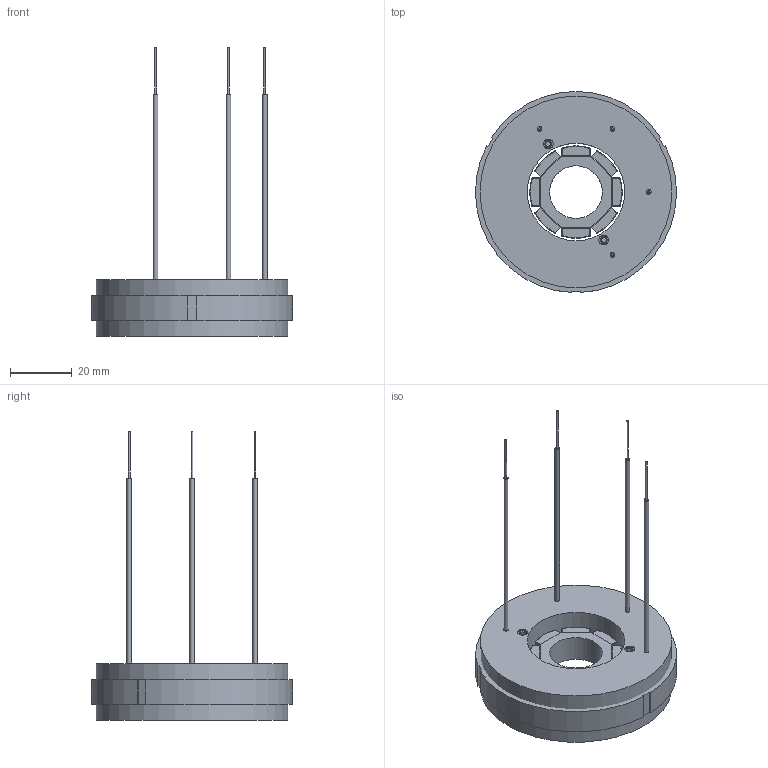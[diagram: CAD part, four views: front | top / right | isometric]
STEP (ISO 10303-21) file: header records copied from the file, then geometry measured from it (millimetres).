
FILE_DESCRIPTION(/* description */ ('Torque_QTR_65_17_N_Kit_CAD_190315.stp'),/* implementation_level */ '2;1');
FILE_NAME(/* name */ 'Torque_QTR_65_17_N_Kit_CAD_190315',/* time_stamp */ '2019-03-15T10:17:58+01:00',/* author */ ('Tecnotion'),/* organization */ ('Tecnotion'),/* preprocessor_version */ 'ST-DEVELOPER v16.7',/* originating_system */ 'DEX',/* authorisation */ $);
FILE_SCHEMA (('AP242_MANAGED_MODEL_BASED_3D_ENGINEERING_MIM_LF { 1 0 10303 442 1 1 4 }','AUTOMOTIVE_DESIGN {1 0 10303 214 3 1 1}'));
Length unit declared in the file: millimetre
Products named in the file (2): 1080623_190314
Assembly tree (1 placements, depth 2):
  1080623_190314
    1080623_190314
Bounding box: 64.98 x 64.96 x 93.3 mm (x, y, z)
Surface area: 19574.8 mm2 (no closed solid volume)
Topology: 0 solids, 17 shells, 288 faces, 913 edges, 598 vertices
Faces by surface type: plane 145, cylinder 64, sphere 32, bspline 29, torus 16, cone 2
Full cylindrical faces by diameter (mm): 0.6 x4, 1.5 x6, 1.65 x2, 3.2 x2, 17 x1, 31.5 x1, 62 x1
Entity records: 11583 total; most frequent: CARTESIAN_POINT 4327, ORIENTED_EDGE 1300, DIRECTION 1284, EDGE_CURVE 856, VERTEX_POINT 596, AXIS2_PLACEMENT_3D 495, EDGE_LOOP 357, FACE_BOUND 357
